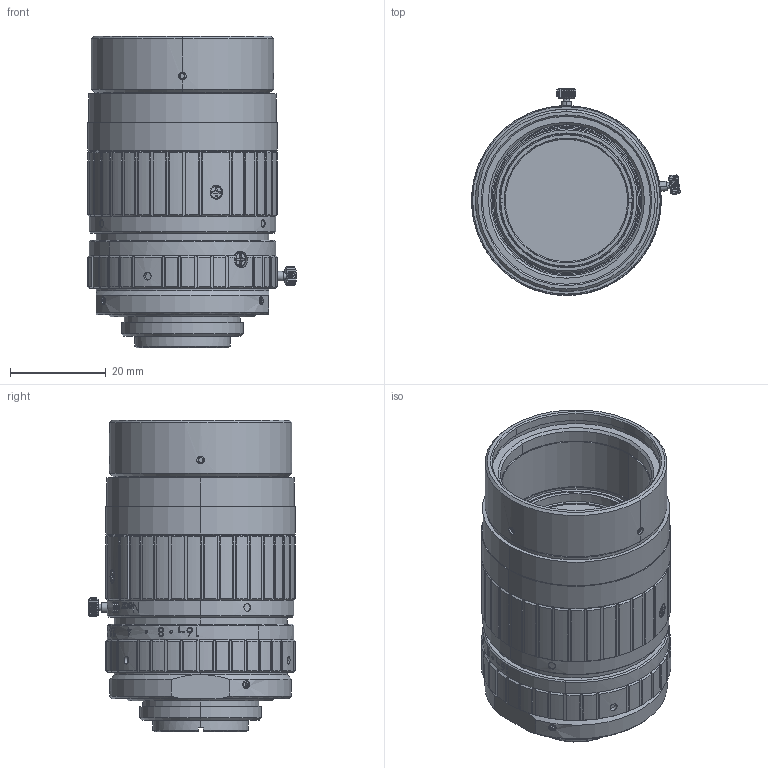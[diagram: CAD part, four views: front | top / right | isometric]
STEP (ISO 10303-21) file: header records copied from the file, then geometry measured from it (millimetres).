
FILE_DESCRIPTION (( 'STEP AP203' ), '1' );
FILE_NAME ('3d_ml-u5022sr-18c_a002.STEP', '2019-03-14T05:23:16', ( '' ), ( '' ), 'SwSTEP 2.0', 'SolidWorks 2014', '' );
FILE_SCHEMA (( 'CONFIG_CONTROL_DESIGN' ));
Length unit declared in the file: millimetre
Products named in the file (1): 3d_ml-u5022sr-18c_a002
Bounding box: 43.49 x 43.1 x 64.9 mm (x, y, z)
Volume: 55626.6 mm3; surface area: 14681.9 mm2
Topology: 1 solids, 6 shells, 1350 faces, 3592 edges, 2343 vertices
Faces by surface type: plane 566, cylinder 422, bspline 210, cone 146, torus 4, sphere 2
Entity records: 62658 total; most frequent: CARTESIAN_POINT 32415, ORIENTED_EDGE 7184, DIRECTION 4859, EDGE_CURVE 3592, VERTEX_POINT 2343, AXIS2_PLACEMENT_3D 1859, B_SPLINE_CURVE_WITH_KNOTS 1725, EDGE_LOOP 1445
